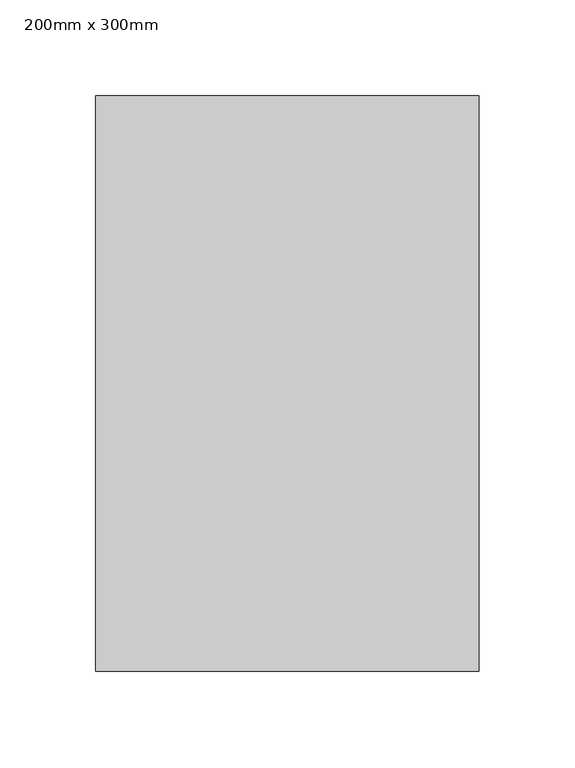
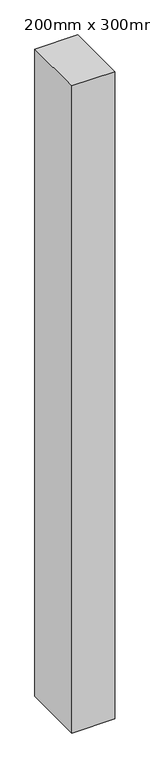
"""IFC4 building model written with IfcOpenShell, lengths in millimetres: column geometry, Poteau béton - Rectangulaire : 200mm x 300mm."""

from ifc_helpers import new_model, si_unit, frame, origin, place, context, project, spatial, polyline, outline, extrude, source, transform, mapped, element, save


def column_200mm_x_300mm_67675290(model_context):
    return source(origin(), model_context, "Body", "SweptSolid", [
        extrude(outline(polyline([(100.0, 150.0), (100.0, -150.0), (-100.0, -150.0), (-100.0, 150.0), (100.0, 150.0)])), frame((0.0, 0.0, 3750.0), z_axis=(0.0, 0.0, 1.0), x_axis=(1.0, 0.0, 0.0)), (0.0, 0.0, 1.0), 3200.0),
    ])


if __name__ == "__main__":
    model = new_model("IFC4")
    model_context = context("Model", 3, world=origin())
    ifc_project = project(units=[si_unit("LENGTHUNIT", "METRE", prefix="MILLI")], contexts=[model_context])
    site = spatial("IfcSite", under=ifc_project)
    building = spatial("IfcBuilding", under=site)
    placement = place(None, origin())
    column_200mm_x_300mm_shape = column_200mm_x_300mm_67675290(model_context)
    element("IfcColumn", 1, ObjectType="Poteau béton - Rectangulaire : 200mm x 300mm", at=placement, inside=building, context=model_context, shape_type="MappedRepresentation", body=[
        mapped(column_200mm_x_300mm_shape, transform((0.0, 0.0, 0.0), x_axis=(1.0, 0.0, 0.0), y_axis=(0.0, 1.0, 0.0), z_axis=(0.0, 0.0, 1.0))),
    ])
    save(model, "model.ifc")
